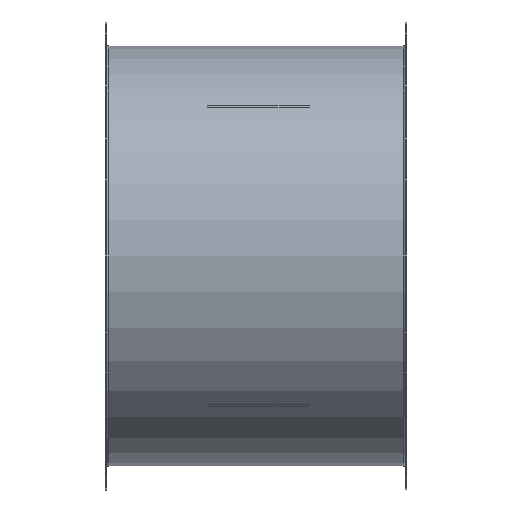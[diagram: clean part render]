
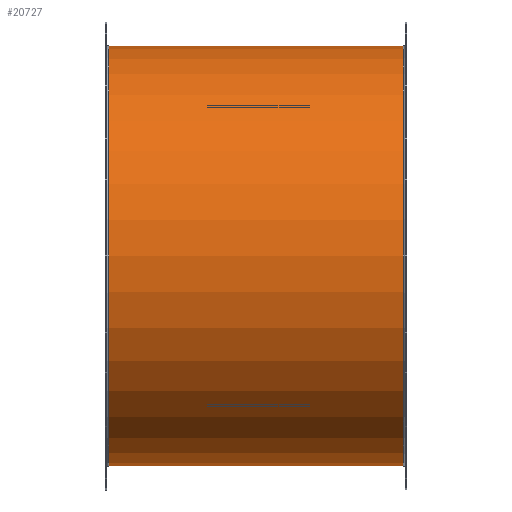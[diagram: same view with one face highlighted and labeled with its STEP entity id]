
A CAD part, front view. The second image highlights one B-rep face of the part: STEP entity #20727.
In plain terms, the highlighted cylindrical face has radius 453 mm (diameter 906 mm), a partial arc.
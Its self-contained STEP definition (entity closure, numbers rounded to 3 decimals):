
#2766 = AXIS2_PLACEMENT_3D ( 'NONE', #30996, #37732, #58118 ) ;
#3532 = DIRECTION ( 'NONE',  ( -1., 0., 0. ) ) ;
#3907 = LINE ( 'NONE', #75585, #20608 ) ;
#8560 = CARTESIAN_POINT ( 'NONE',  ( 643., 0., -453. ) ) ;
#10716 = AXIS2_PLACEMENT_3D ( 'NONE', #70999, #43046, #84160 ) ;
#13271 = CARTESIAN_POINT ( 'NONE',  ( 7., 0., 453. ) ) ;
#13273 = ORIENTED_EDGE ( 'NONE', *, *, #84659, .T. ) ;
#16388 = CARTESIAN_POINT ( 'NONE',  ( 7., 0., 0. ) ) ;
#19103 = CIRCLE ( 'NONE', #29627, 453. ) ;
#20608 = VECTOR ( 'NONE', #41805, 1000. ) ;
#20727 = ADVANCED_FACE ( 'NONE', ( #73184 ), #72106, .T. ) ;
#21777 = ORIENTED_EDGE ( 'NONE', *, *, #41927, .T. ) ;
#24705 = EDGE_CURVE ( 'NONE', #31122, #30942, #3907, .T. ) ;
#29627 = AXIS2_PLACEMENT_3D ( 'NONE', #16388, #3532, #30935 ) ;
#30515 = DIRECTION ( 'NONE',  ( -1., 0., 0. ) ) ;
#30935 = DIRECTION ( 'NONE',  ( 0., 0., 1. ) ) ;
#30942 = VERTEX_POINT ( 'NONE', #50680 ) ;
#30996 = CARTESIAN_POINT ( 'NONE',  ( 0., 0., 0. ) ) ;
#31122 = VERTEX_POINT ( 'NONE', #8560 ) ;
#35759 = EDGE_LOOP ( 'NONE', ( #49072, #13273, #21777, #77079 ) ) ;
#36702 = VECTOR ( 'NONE', #30515, 1000. ) ;
#37381 = CIRCLE ( 'NONE', #10716, 453. ) ;
#37732 = DIRECTION ( 'NONE',  ( -1., 0., 0. ) ) ;
#40617 = EDGE_CURVE ( 'NONE', #30942, #67129, #19103, .T. ) ;
#41805 = DIRECTION ( 'NONE',  ( -1., 0., 0. ) ) ;
#41927 = EDGE_CURVE ( 'NONE', #64985, #67129, #85758, .T. ) ;
#43046 = DIRECTION ( 'NONE',  ( -1., 0., 0. ) ) ;
#49072 = ORIENTED_EDGE ( 'NONE', *, *, #24705, .F. ) ;
#50680 = CARTESIAN_POINT ( 'NONE',  ( 7., 0., -453. ) ) ;
#57093 = CARTESIAN_POINT ( 'NONE',  ( 0., 0., 453. ) ) ;
#58118 = DIRECTION ( 'NONE',  ( 0., 0., 1. ) ) ;
#64985 = VERTEX_POINT ( 'NONE', #82469 ) ;
#67129 = VERTEX_POINT ( 'NONE', #13271 ) ;
#70999 = CARTESIAN_POINT ( 'NONE',  ( 643., 0., 0. ) ) ;
#72106 = CYLINDRICAL_SURFACE ( 'NONE', #2766, 453. ) ;
#73184 = FACE_OUTER_BOUND ( 'NONE', #35759, .T. ) ;
#75585 = CARTESIAN_POINT ( 'NONE',  ( 0., 0., -453. ) ) ;
#77079 = ORIENTED_EDGE ( 'NONE', *, *, #40617, .F. ) ;
#82469 = CARTESIAN_POINT ( 'NONE',  ( 643., 0., 453. ) ) ;
#84160 = DIRECTION ( 'NONE',  ( 0., 0., 1. ) ) ;
#84659 = EDGE_CURVE ( 'NONE', #31122, #64985, #37381, .T. ) ;
#85758 = LINE ( 'NONE', #57093, #36702 ) ;
